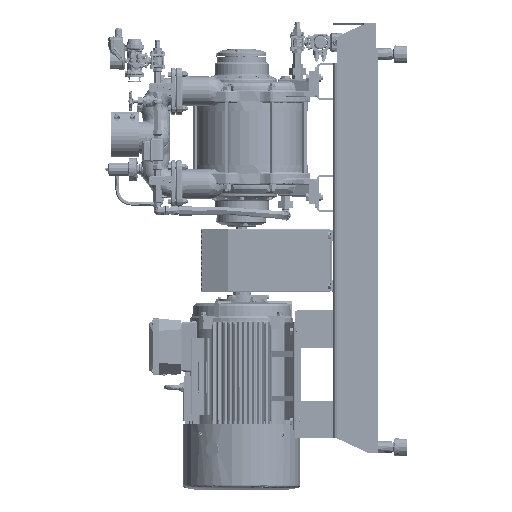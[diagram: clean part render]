
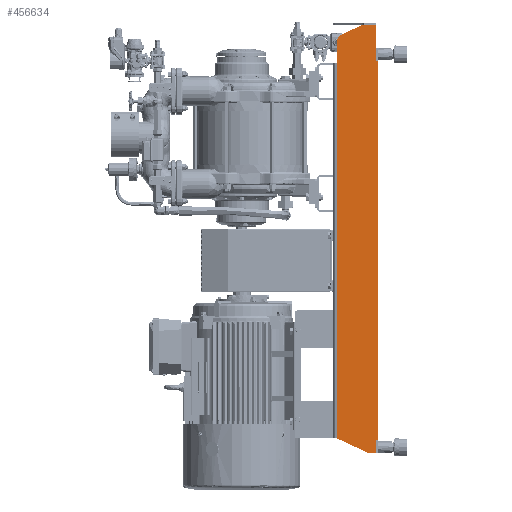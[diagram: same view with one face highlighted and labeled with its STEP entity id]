
A CAD part, left-side view. The second image highlights one B-rep face of the part: STEP entity #456634.
In plain terms, the highlighted planar face has unit normal (-1, 0, 0).
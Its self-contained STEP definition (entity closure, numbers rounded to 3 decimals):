
#29566=PLANE('',#486754);
#52247=FACE_OUTER_BOUND('',#78736,.T.);
#78736=EDGE_LOOP('',(#339510,#339511,#339512,#339513,#339514,#339515,#339516,
#339517,#339518,#339519,#339520,#339521));
#109738=LINE('',#848221,#143981);
#110425=LINE('',#850403,#144668);
#110426=LINE('',#850405,#144669);
#110427=LINE('',#850406,#144670);
#110428=LINE('',#850408,#144671);
#110429=LINE('',#850412,#144672);
#110430=LINE('',#850413,#144673);
#110431=LINE('',#850415,#144674);
#110432=LINE('',#850417,#144675);
#110433=LINE('',#850419,#144676);
#110434=LINE('',#850420,#144677);
#143981=VECTOR('',#552092,10.);
#144668=VECTOR('',#553959,10.);
#144669=VECTOR('',#553960,10.);
#144670=VECTOR('',#553961,10.);
#144671=VECTOR('',#553962,10.);
#144672=VECTOR('',#553965,10.);
#144673=VECTOR('',#553966,10.);
#144674=VECTOR('',#553967,10.);
#144675=VECTOR('',#553968,10.);
#144676=VECTOR('',#553969,10.);
#144677=VECTOR('',#553970,10.);
#170697=CIRCLE('',#486755,25.);
#196703=VERTEX_POINT('',#848218);
#196704=VERTEX_POINT('',#848220);
#197334=VERTEX_POINT('',#850387);
#197338=VERTEX_POINT('',#850401);
#197339=VERTEX_POINT('',#850402);
#197340=VERTEX_POINT('',#850404);
#197341=VERTEX_POINT('',#850407);
#197342=VERTEX_POINT('',#850409);
#197343=VERTEX_POINT('',#850411);
#197344=VERTEX_POINT('',#850414);
#197345=VERTEX_POINT('',#850416);
#197346=VERTEX_POINT('',#850418);
#247395=EDGE_CURVE('',#196703,#196704,#109738,.T.);
#248414=EDGE_CURVE('',#197338,#197339,#110425,.T.);
#248415=EDGE_CURVE('',#197338,#197340,#110426,.T.);
#248416=EDGE_CURVE('',#196704,#197340,#110427,.T.);
#248417=EDGE_CURVE('',#197341,#196703,#110428,.T.);
#248418=EDGE_CURVE('',#197342,#197341,#170697,.T.);
#248419=EDGE_CURVE('',#197343,#197342,#110429,.T.);
#248420=EDGE_CURVE('',#197343,#197334,#110430,.T.);
#248421=EDGE_CURVE('',#197344,#197334,#110431,.T.);
#248422=EDGE_CURVE('',#197345,#197344,#110432,.T.);
#248423=EDGE_CURVE('',#197345,#197346,#110433,.T.);
#248424=EDGE_CURVE('',#197346,#197339,#110434,.T.);
#339510=ORIENTED_EDGE('',*,*,#248414,.F.);
#339511=ORIENTED_EDGE('',*,*,#248415,.T.);
#339512=ORIENTED_EDGE('',*,*,#248416,.F.);
#339513=ORIENTED_EDGE('',*,*,#247395,.F.);
#339514=ORIENTED_EDGE('',*,*,#248417,.F.);
#339515=ORIENTED_EDGE('',*,*,#248418,.F.);
#339516=ORIENTED_EDGE('',*,*,#248419,.F.);
#339517=ORIENTED_EDGE('',*,*,#248420,.T.);
#339518=ORIENTED_EDGE('',*,*,#248421,.F.);
#339519=ORIENTED_EDGE('',*,*,#248422,.F.);
#339520=ORIENTED_EDGE('',*,*,#248423,.T.);
#339521=ORIENTED_EDGE('',*,*,#248424,.T.);
#456634=ADVANCED_FACE('',(#52247),#29566,.T.);
#486754=AXIS2_PLACEMENT_3D('',#850400,#553957,#553958);
#486755=AXIS2_PLACEMENT_3D('',#850410,#553963,#553964);
#552092=DIRECTION('',(0.,-1.,0.));
#553957=DIRECTION('center_axis',(-1.,0.,0.));
#553958=DIRECTION('ref_axis',(0.,0.,
-1.));
#553959=DIRECTION('',(0.,0.,-1.));
#553960=DIRECTION('',(0.,1.,0.));
#553961=DIRECTION('',(0.,0.,-1.));
#553962=DIRECTION('',(0.,-0.906,0.423));
#553963=DIRECTION('center_axis',(1.,0.,0.));
#553964=DIRECTION('ref_axis',(0.,0.843,0.537));
#553965=DIRECTION('',(0.,0.,1.));
#553966=DIRECTION('',(0.,0.,-1.));
#553967=DIRECTION('',(0.,0.906,0.423));
#553968=DIRECTION('',(0.,1.,0.));
#553969=DIRECTION('',(0.,0.,1.));
#553970=DIRECTION('',(0.,-1.,0.));
#848218=CARTESIAN_POINT('',(-254.,-3.804,666.766));
#848220=CARTESIAN_POINT('',(-254.,-49.,666.766));
#848221=CARTESIAN_POINT('',(-254.,-3.804,666.766));
#850387=CARTESIAN_POINT('',(-254.,83.,-730.234));
#850400=CARTESIAN_POINT('Origin',(-254.,348.586,-186.984));
#850401=CARTESIAN_POINT('',(-254.,-55.,542.766));
#850402=CARTESIAN_POINT('',(-254.,-55.,-736.234));
#850403=CARTESIAN_POINT('',(-254.,-55.,-980.734));
#850404=CARTESIAN_POINT('',(-254.,-49.,542.766));
#850405=CARTESIAN_POINT('',(-254.,146.793,542.766));
#850406=CARTESIAN_POINT('',(-254.,-49.,666.766));
#850407=CARTESIAN_POINT('',(-254.,68.565,633.02));
#850408=CARTESIAN_POINT('',(-254.,83.,626.289));
#850409=CARTESIAN_POINT('',(-254.,83.,610.362));
#850410=CARTESIAN_POINT('Origin',(-254.,58.,610.362));
#850411=CARTESIAN_POINT('',(-254.,83.,536.766));
#850412=CARTESIAN_POINT('',(-254.,83.,536.766));
#850413=CARTESIAN_POINT('',(-254.,83.,-186.984));
#850414=CARTESIAN_POINT('',(-254.,-24.225,-780.234));
#850415=CARTESIAN_POINT('',(-254.,-24.225,-780.234));
#850416=CARTESIAN_POINT('',(-254.,-49.,-780.234));
#850417=CARTESIAN_POINT('',(-254.,-55.,-780.234));
#850418=CARTESIAN_POINT('',(-254.,-49.,-736.234));
#850419=CARTESIAN_POINT('',(-254.,-49.,-487.359));
#850420=CARTESIAN_POINT('',(-254.,146.793,-736.234));
